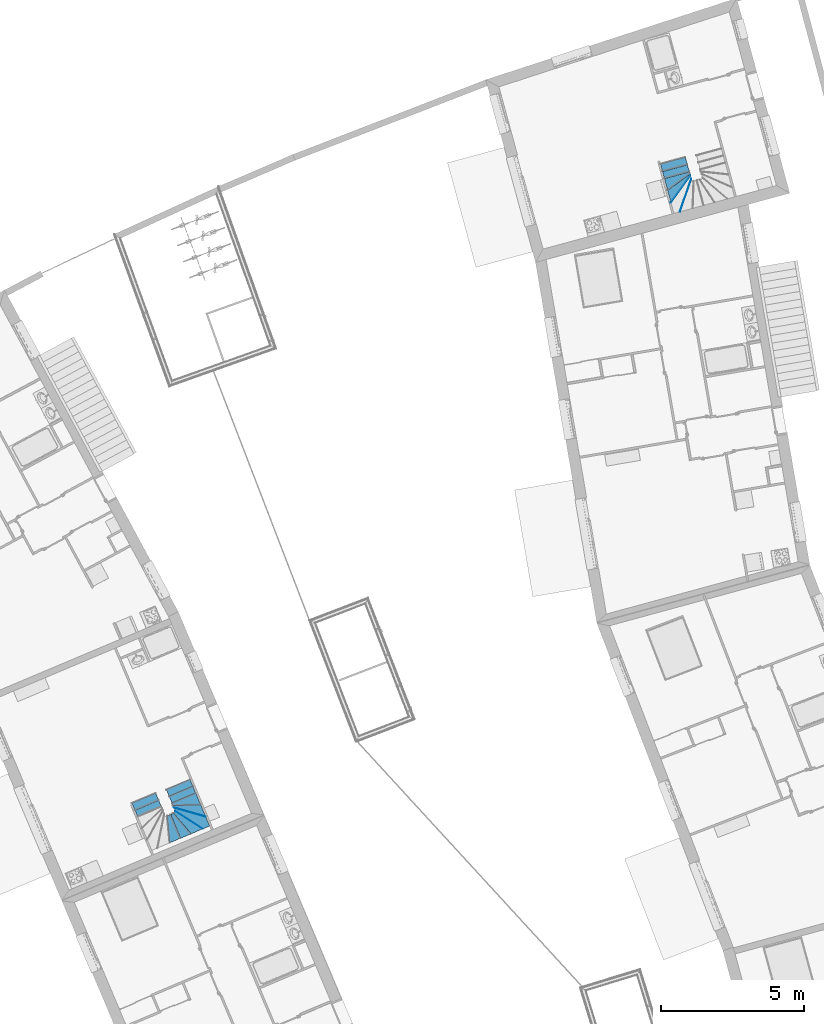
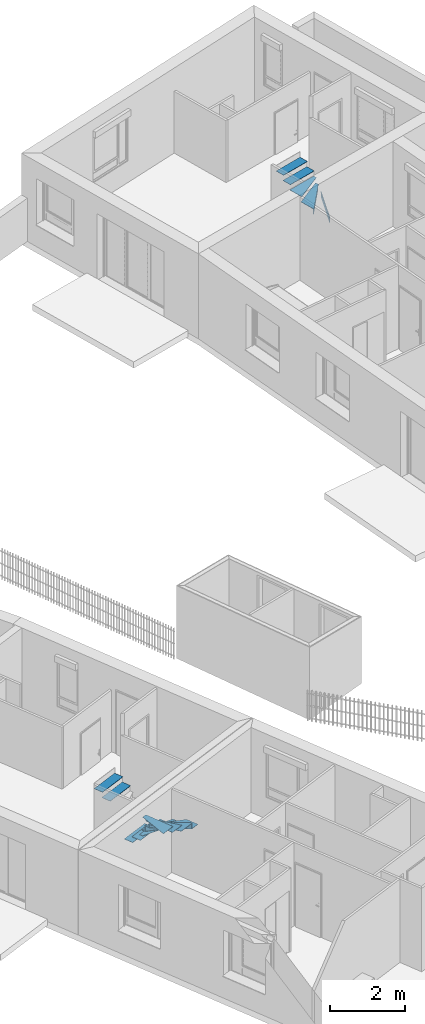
# One storey, part 102 of 195: 33 members, 4 elements without a shape of their own.
"""IFC2X3 building model written with IfcOpenShell, lengths in metres."""

from ifc_helpers import new_model, entity, si_unit, converted_unit, derived_unit, money_unit, direction, frame, origin_with_axes, place, context, subcontext, project, spatial, faceted_brep, material, type_object, element, aggregate, save


model = new_model("IFC2X3")

# Units and contexts
model_context = context("Model", 3, precision=1e-05, world=origin_with_axes(), true_north=direction((0.0, 1.0)))
body_context = subcontext(model_context, "Body", "Model", "MODEL_VIEW")
ifc_project = project(units=[si_unit("LENGTHUNIT", "METRE"), si_unit("AREAUNIT", "SQUARE_METRE"), si_unit("VOLUMEUNIT", "CUBIC_METRE"), converted_unit("PLANEANGLEUNIT", "DEGREE", entity("IfcPlaneAngleMeasure", 0.0174532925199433), si_unit("PLANEANGLEUNIT", "RADIAN"), dimensions=[0, 0, 0, 0, 0, 0, 0]), money_unit("CHF"), converted_unit("TIMEUNIT", "Year", entity("IfcTimeMeasure", 31557600.0), si_unit("TIMEUNIT", "SECOND"), dimensions=[0, 0, 1, 0, 0, 0, 0]), si_unit("MASSUNIT", "GRAM", prefix="KILO"), si_unit("THERMODYNAMICTEMPERATUREUNIT", "DEGREE_CELSIUS"), si_unit("LUMINOUSINTENSITYUNIT", "LUMEN"), si_unit("ENERGYUNIT", "JOULE", prefix="MEGA"), derived_unit("THERMALCONDUCTANCEUNIT", [(si_unit("POWERUNIT", "WATT"), 1), (si_unit("LENGTHUNIT", "METRE"), -1), (si_unit("THERMODYNAMICTEMPERATUREUNIT", "KELVIN"), -1)]), derived_unit("SPECIFICHEATCAPACITYUNIT", [(si_unit("ENERGYUNIT", "JOULE"), 1), (si_unit("MASSUNIT", "GRAM", prefix="KILO"), -1), (si_unit("THERMODYNAMICTEMPERATUREUNIT", "KELVIN"), -1)]), derived_unit("MASSDENSITYUNIT", [(si_unit("MASSUNIT", "GRAM", prefix="KILO"), 1), (si_unit("VOLUMEUNIT", "CUBIC_METRE"), -1)])], contexts=[model_context])

# Site, building, storey
site_placement = place(None, origin_with_axes())
site = spatial("IfcSite", under=ifc_project, at=site_placement, Name="Site", CompositionType="ELEMENT")
building_placement = place(site_placement, origin_with_axes())
building = spatial("IfcBuilding", under=site, at=building_placement, Name="Bâtiment", CompositionType="ELEMENT")
storey_placement = place(building_placement, origin_with_axes())
storey = spatial("IfcBuildingStorey", under=building, at=storey_placement, Name="rdc", CompositionType="ELEMENT", Elevation=0.0)

# Stair, members
stair_1_placement = place(storey_placement, frame((9586.532297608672, -1019.891691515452, 57.0), z_axis=(0.0, 0.0, 1.0), x_axis=(0.2627338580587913, -0.9648683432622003, 0.0)))
stair_1 = element("IfcStair", 1, at=stair_1_placement, inside=storey, Name="ESC-014", ShapeType="NOTDEFINED")
ifc_material = material(Name="Lame d'air 275581351")
member_type = type_object("IfcMemberType", Name="IfcMember", PredefinedType="NOTDEFINED")
member_1_placement = place(stair_1_placement, frame((0.3566547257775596, -1.568489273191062, 1.789999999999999), z_axis=(0.0, 0.0, 1.0), x_axis=(-0.8264540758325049, 0.5630041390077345, 0.0)))
member_1 = element("IfcMember", 2, at=member_1_placement, type_object=member_type, material=ifc_material, Name="C-MARCHE-240", context=body_context, shape_type="Brep", body=[
    faceted_brep([(0.5380235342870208, 0.01499999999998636, 0.0), (0.5527028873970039, 0.02499999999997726, 0.0), (-0.6744728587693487, 0.02499999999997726, 0.0), (-0.6676605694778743, 0.01499999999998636, 0.0), (0.5380235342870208, 0.01499999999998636, -0.1700000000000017), (0.5527028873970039, 0.02499999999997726, -0.1700000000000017), (-0.6744728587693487, 0.02499999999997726, -0.1700000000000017), (-0.6676605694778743, 0.01499999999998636, -0.1700000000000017)], [[[0, 1, 2, 3]], [[0, 4, 5, 1]], [[1, 5, 6, 2]], [[3, 2, 6, 7]], [[4, 0, 3, 7]], [[5, 4, 7, 6]]]),
])
member_2_placement = place(stair_1_placement, frame((0.1501363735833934, -1.712785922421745, 1.969999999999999), z_axis=(0.0, 0.0, 1.0), x_axis=(-0.6269331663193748, 0.7790730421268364, 0.0)))
member_2 = element("IfcMember", 3, at=member_2_placement, type_object=member_type, material=ifc_material, Name="C-MARCHE-241", context=body_context, shape_type="Brep", body=[
    faceted_brep([(0.5701818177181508, 0.01499999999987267, 0.0), (0.5782289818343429, 0.02499999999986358, 0.0), (-0.5769898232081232, 0.02499999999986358, 0.0), (-0.5850369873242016, 0.01499999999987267, 0.0), (0.5701818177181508, 0.01499999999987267, -0.1700000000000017), (0.5782289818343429, 0.02499999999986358, -0.1700000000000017), (-0.5769898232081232, 0.02499999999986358, -0.1700000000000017), (-0.5850369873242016, 0.01499999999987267, -0.1700000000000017)], [[[0, 1, 2, 3]], [[0, 4, 5, 1]], [[1, 5, 6, 2]], [[3, 2, 6, 7]], [[4, 0, 3, 7]], [[5, 4, 7, 6]]]),
])
member_3_placement = place(stair_1_placement, frame((0.1501363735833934, -1.712785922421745, 1.979999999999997), z_axis=(0.0, 0.0, 1.0), x_axis=(-0.6269331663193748, 0.7790730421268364, 0.0)))
member_3 = element("IfcMember", 4, at=member_3_placement, type_object=member_type, material=ifc_material, Name="MARCHE-233", context=body_context, shape_type="Brep", body=[
    faceted_brep([(-0.5971077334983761, 0.0, -0.00999999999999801), (0.5581110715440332, 0.0, -0.00999999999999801), (0.5581110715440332, 0.0, 0.0), (-0.5971077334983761, 0.0, 0.0), (-0.2946838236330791, 0.3758142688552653, -0.00999999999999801), (0.6259951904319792, 0.08435781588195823, -0.00999999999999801), (0.6259951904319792, 0.08435781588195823, 0.0), (-0.2946838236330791, 0.3758142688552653, 0.0)], [[[0, 1, 2, 3]], [[0, 4, 5, 1]], [[1, 5, 6, 2]], [[3, 2, 6, 7]], [[4, 0, 3, 7]], [[5, 4, 7, 6]]]),
])
member_4_placement = place(stair_1_placement, frame((-0.102256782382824, -1.737976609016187, 2.159999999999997), z_axis=(0.0, 0.0, 1.0), x_axis=(-0.3625707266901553, 0.9319562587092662, 0.0)))
member_4 = element("IfcMember", 5, at=member_4_placement, type_object=member_type, material=ifc_material, Name="MARCHE-234", context=body_context, shape_type="Brep", body=[
    faceted_brep([(-0.4721251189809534, 0.0, -0.01), (0.4935853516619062, 0.0, -0.01), (0.4935853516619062, 0.0, 0.0), (-0.4721251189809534, 0.0, 0.0), (-0.3084702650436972, 0.4206607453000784, -0.01), (0.5302904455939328, 0.09434729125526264, -0.01), (0.5302904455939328, 0.09434729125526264, 0.0), (-0.3084702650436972, 0.4206607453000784, 0.0)], [[[0, 1, 2, 3]], [[0, 4, 5, 1]], [[1, 5, 6, 2]], [[3, 2, 6, 7]], [[4, 0, 3, 7]], [[5, 4, 7, 6]]]),
])
member_5_placement = place(stair_1_placement, frame((-0.3574520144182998, -1.737976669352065, 2.340000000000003), z_axis=(0.0, 0.0, 1.0), x_axis=(-2.364303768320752e-07, 0.9999999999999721, 0.0)))
member_5 = element("IfcMember", 6, at=member_5_placement, type_object=member_type, material=ifc_material, Name="MARCHE-235", context=body_context, shape_type="Brep", body=[
    faceted_brep([(-0.4399999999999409, 0.0, -0.00999999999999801), (0.4600000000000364, 0.0, -0.00999999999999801), (0.4600000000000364, 0.0, 0.0), (-0.4399999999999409, 0.0, 0.0), (-0.4399999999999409, 0.280195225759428, -0.00999999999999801), (0.4600000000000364, 0.2801952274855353, -0.00999999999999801), (0.4600000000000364, 0.2801952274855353, 0.0), (-0.4399999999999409, 0.280195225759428, 0.0)], [[[0, 1, 2, 3]], [[0, 4, 5, 1]], [[1, 5, 6, 2]], [[3, 2, 6, 7]], [[4, 0, 3, 7]], [[5, 4, 7, 6]]]),
])
member_6_placement = place(stair_1_placement, frame((-0.6126472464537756, -1.73797672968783, 2.520000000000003), z_axis=(0.0, 0.0, 1.0), x_axis=(-2.364303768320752e-07, 0.9999999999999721, 0.0)))
member_6 = element("IfcMember", 7, at=member_6_placement, type_object=member_type, material=ifc_material, Name="MARCHE-236", context=body_context, shape_type="Brep", body=[
    faceted_brep([(-0.4400000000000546, 0.0, -0.00999999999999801), (0.4599999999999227, 0.0, -0.00999999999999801), (0.4599999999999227, 0.0, 0.0), (-0.4400000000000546, 0.0, 0.0), (-0.4400000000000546, 0.2551952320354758, -0.00999999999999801), (-0.4399999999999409, 0.280195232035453, -0.00999999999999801), (0.4600000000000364, 0.280195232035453, -0.00999999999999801), (0.4600000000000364, 0.2551952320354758, -0.00999999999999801), (0.4600000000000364, 0.2551952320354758, 0.0), (0.4600000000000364, 0.280195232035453, 0.0), (-0.4399999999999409, 0.280195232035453, 0.0), (-0.4400000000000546, 0.2551952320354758, 0.0)], [[[0, 1, 2, 3]], [[0, 4, 5, 6, 7, 1]], [[1, 7, 8, 2]], [[3, 2, 8, 9, 10, 11]], [[4, 0, 3, 11]], [[5, 4, 11, 10]], [[6, 5, 10, 9]], [[7, 6, 9, 8]]]),
])
aggregate(stair_1, [member_1, member_2, member_3, member_4, member_5, member_6])

stair_2_placement = place(storey_placement, frame((9568.089270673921, -1041.901953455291, 57.0), z_axis=(0.0, 0.0, 1.0), x_axis=(0.3885666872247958, -0.9214206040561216, 0.0)))
stair_2 = element("IfcStair", 8, at=stair_2_placement, inside=storey, Name="ESC-014", ShapeType="NOTDEFINED")
member_7_placement = place(stair_2_placement, frame((0.1501360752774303, -0.4512523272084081, 0.8900000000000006), z_axis=(0.0, 0.0, 1.0), x_axis=(-0.6269327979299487, -0.7790733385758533, 0.0)))
member_7 = element("IfcMember", 9, at=member_7_placement, type_object=member_type, material=ifc_material, Name="C-MARCHE-235", context=body_context, shape_type="Brep", body=[
    faceted_brep([(0.5460403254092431, 0.01500000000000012, 0.0), (0.5379931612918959, 0.02500000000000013, 0.0), (-0.6172256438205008, 0.02500000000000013, 0.0), (-0.6091784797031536, 0.01500000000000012, 0.0), (0.5460403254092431, 0.01500000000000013, -0.17), (0.5379931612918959, 0.02500000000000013, -0.17), (-0.6172256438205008, 0.02500000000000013, -0.17), (-0.6091784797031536, 0.01500000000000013, -0.17)], [[[0, 1, 2, 3]], [[0, 4, 5, 1]], [[1, 5, 6, 2]], [[3, 2, 6, 7]], [[4, 0, 3, 7]], [[5, 4, 7, 6]]]),
])
member_8_placement = place(stair_2_placement, frame((0.3566544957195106, -0.5955488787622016, 1.07), z_axis=(0.0, 0.0, 1.0), x_axis=(-0.8264538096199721, -0.5630045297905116, 0.0)))
member_8 = element("IfcMember", 10, at=member_8_placement, type_object=member_type, material=ifc_material, Name="C-MARCHE-236", context=body_context, shape_type="Brep", body=[
    faceted_brep([(0.4939854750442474, 0.0149999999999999, 0.0), (0.4793061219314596, 0.0249999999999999, 0.0), (-0.6404114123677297, 0.02499999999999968, 0.0), (-0.6472237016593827, 0.01499999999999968, 0.0), (0.4939854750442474, 0.01499999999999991, -0.1699999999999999), (0.4793061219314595, 0.02499999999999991, -0.1699999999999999), (-0.6404114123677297, 0.02499999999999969, -0.1699999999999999), (-0.6472237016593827, 0.01499999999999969, -0.1699999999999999)], [[[0, 1, 2, 3]], [[0, 4, 5, 1]], [[1, 5, 6, 2]], [[3, 2, 6, 7]], [[4, 0, 3, 7]], [[5, 4, 7, 6]]]),
])
member_9_placement = place(stair_2_placement, frame((-0.8678427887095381, -0.4260619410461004, 0.1799999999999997), z_axis=(0.0, 0.0, 1.0), x_axis=(2.3650091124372e-07, -0.999999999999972, 0.0)))
member_9 = element("IfcMember", 11, at=member_9_placement, type_object=member_type, material=ifc_material, Name="MARCHE-223", context=body_context, shape_type="Brep", body=[
    faceted_brep([(-0.44, 0.0, -0.01), (0.4600000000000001, 0.0, -0.01), (0.4600000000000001, 0.0, 0.0), (-0.44, 0.0, 0.0), (-0.4399999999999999, 0.280195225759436, -0.01), (0.4600000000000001, 0.2801952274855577, -0.01), (0.4600000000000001, 0.2801952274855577, 0.0), (-0.4399999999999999, 0.280195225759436, 0.0)], [[[0, 1, 2, 3]], [[0, 4, 5, 1]], [[1, 5, 6, 2]], [[3, 2, 6, 7]], [[4, 0, 3, 7]], [[5, 4, 7, 6]]]),
])
member_10_placement = place(stair_2_placement, frame((-0.6126475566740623, -0.4260618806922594, 0.3599999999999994), z_axis=(0.0, 0.0, 1.0), x_axis=(2.365009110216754e-07, -0.999999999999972, 0.0)))
member_10 = element("IfcMember", 12, at=member_10_placement, type_object=member_type, material=ifc_material, Name="MARCHE-224", context=body_context, shape_type="Brep", body=[
    faceted_brep([(-0.44, 0.0, -0.01), (0.4600000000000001, 0.0, -0.01), (0.4600000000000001, 0.0, 0.0), (-0.44, 0.0, 0.0), (-0.4399999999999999, 0.280195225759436, -0.01), (0.4600000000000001, 0.2801952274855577, -0.01), (0.4600000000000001, 0.2801952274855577, 0.0), (-0.4399999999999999, 0.280195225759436, 0.0)], [[[0, 1, 2, 3]], [[0, 4, 5, 1]], [[1, 5, 6, 2]], [[3, 2, 6, 7]], [[4, 0, 3, 7]], [[5, 4, 7, 6]]]),
])
member_11_placement = place(stair_2_placement, frame((-0.3574523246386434, -0.4260618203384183, 0.5399999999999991), z_axis=(0.0, 0.0, 1.0), x_axis=(2.3650091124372e-07, -0.999999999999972, 0.0)))
member_11 = element("IfcMember", 13, at=member_11_placement, type_object=member_type, material=ifc_material, Name="MARCHE-225", context=body_context, shape_type="Brep", body=[
    faceted_brep([(-0.4400000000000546, 0.0, -0.00999999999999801), (0.4600000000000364, 0.0, -0.00999999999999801), (0.4600000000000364, 0.0, 0.0), (-0.4400000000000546, 0.0, 0.0), (-0.4399999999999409, 0.4531991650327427, -0.00999999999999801), (0.4599999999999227, 0.1030610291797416, -0.00999999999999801), (0.4599999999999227, 0.1030610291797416, 0.0), (-0.4399999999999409, 0.4531991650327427, 0.0)], [[[0, 1, 2, 3]], [[0, 4, 5, 1]], [[1, 5, 6, 2]], [[3, 2, 6, 7]], [[4, 0, 3, 7]], [[5, 4, 7, 6]]]),
])
member_12_placement = place(stair_2_placement, frame((-0.1022570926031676, -0.4260617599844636, 0.7199999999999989), z_axis=(0.0, 0.0, 1.0), x_axis=(-0.362570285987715, -0.9319564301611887, 0.0)))
member_12 = element("IfcMember", 14, at=member_12_placement, type_object=member_type, material=ifc_material, Name="MARCHE-226", context=body_context, shape_type="Brep", body=[
    faceted_brep([(-0.4721251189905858, 0.0, -0.01), (0.4935853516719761, 0.0, -0.01), (0.4935853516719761, 0.0, 0.0), (-0.4721251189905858, 0.0, 0.0), (-0.6489327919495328, 0.4544689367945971, -0.01), (0.4524177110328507, 0.1058178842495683, -0.01), (0.4524177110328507, 0.1058178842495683, 0.0), (-0.6489327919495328, 0.4544689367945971, 0.0)], [[[0, 1, 2, 3]], [[0, 4, 5, 1]], [[1, 5, 6, 2]], [[3, 2, 6, 7]], [[4, 0, 3, 7]], [[5, 4, 7, 6]]]),
])
member_13_placement = place(stair_2_placement, frame((0.1501360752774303, -0.4512523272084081, 0.8999999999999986), z_axis=(0.0, 0.0, 1.0), x_axis=(-0.6269327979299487, -0.7790733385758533, 0.0)))
member_13 = element("IfcMember", 15, at=member_13_placement, type_object=member_type, material=ifc_material, Name="MARCHE-227", context=body_context, shape_type="Brep", body=[
    faceted_brep([(-0.5971077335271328, 0.0, -0.01), (0.5581110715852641, 0.0, -0.01), (0.5581110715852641, 0.0, 0.0), (-0.5971077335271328, 0.0, 0.0), (-0.8325320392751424, 0.2925556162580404, -0.01), (-0.6224984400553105, 0.4615731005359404, -0.01), (0.4487944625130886, 0.1358448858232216, -0.01), (0.4487944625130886, 0.1358448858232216, 0.0), (-0.6224984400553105, 0.4615731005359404, 0.0), (-0.8325320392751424, 0.2925556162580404, 0.0)], [[[0, 1, 2, 3]], [[0, 4, 5, 6, 1]], [[1, 6, 7, 2]], [[3, 2, 7, 8, 9]], [[4, 0, 3, 9]], [[5, 4, 9, 8]], [[6, 5, 8, 7]]]),
])
member_14_placement = place(stair_2_placement, frame((0.3566544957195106, -0.5955488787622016, 1.079999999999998), z_axis=(0.0, 0.0, 1.0), x_axis=(-0.8264538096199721, -0.5630045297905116, 0.0)))
member_14 = element("IfcMember", 16, at=member_14_placement, type_object=member_type, material=ifc_material, Name="MARCHE-228", context=body_context, shape_type="Brep", body=[
    faceted_brep([(-0.6574421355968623, 0.0, -0.01), (0.5160045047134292, 0.0, -0.01), (0.5160045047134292, 0.0, 0.0), (-0.6574421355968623, 0.0, 0.0), (-0.3823180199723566, 0.403864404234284, -0.01), (0.5203138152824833, 0.1303028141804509, -0.01), (0.4583183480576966, 0.03929747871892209, -0.01), (0.4583183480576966, 0.03929747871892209, 0.0), (0.5203138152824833, 0.1303028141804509, 0.0), (-0.3823180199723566, 0.403864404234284, 0.0)], [[[0, 1, 2, 3]], [[0, 4, 5, 6, 1]], [[1, 6, 7, 2]], [[3, 2, 7, 8, 9]], [[4, 0, 3, 9]], [[5, 4, 9, 8]], [[6, 5, 8, 7]]]),
])
member_15_placement = place(stair_2_placement, frame((0.4561912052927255, -0.8269874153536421, 1.259999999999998), z_axis=(0.0, 0.0, 1.0), x_axis=(-0.9542231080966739, -0.2990957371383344, 0.0)))
member_15 = element("IfcMember", 17, at=member_15_placement, type_object=member_type, material=ifc_material, Name="MARCHE-229", context=body_context, shape_type="Brep", body=[
    faceted_brep([(-0.465099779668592, 0.0, -0.01), (0.4780758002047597, 0.0, -0.01), (0.4780758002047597, 0.0, 0.0), (-0.465099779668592, 0.0, 0.0), (-0.3397366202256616, 0.3999539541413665, -0.01), (0.5190642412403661, 0.1307679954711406, -0.01), (0.5190642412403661, 0.1307679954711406, 0.0), (-0.3397366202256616, 0.3999539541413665, 0.0)], [[[0, 1, 2, 3]], [[0, 4, 5, 1]], [[1, 5, 6, 2]], [[3, 2, 6, 7]], [[4, 0, 3, 7]], [[5, 4, 7, 6]]]),
])
member_16_placement = place(stair_2_placement, frame((0.4600002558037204, -1.082019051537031, 1.439999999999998), z_axis=(0.0, 0.0, 1.0), x_axis=(-0.9999999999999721, -2.364141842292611e-07, 0.0)))
member_16 = element("IfcMember", 18, at=member_16_placement, type_object=member_type, material=ifc_material, Name="MARCHE-230", context=body_context, shape_type="Brep", body=[
    faceted_brep([(-0.4400000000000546, 0.0, -0.00999999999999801), (0.4600000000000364, 0.0, -0.00999999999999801), (0.4600000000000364, 0.0, 0.0), (-0.4400000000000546, 0.0, 0.0), (-0.4400000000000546, 0.420340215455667, -0.00999999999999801), (0.4599999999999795, 0.138240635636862, -0.00999999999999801), (0.4599999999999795, 0.138240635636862, 0.0), (-0.4400000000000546, 0.420340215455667, 0.0)], [[[0, 1, 2, 3]], [[0, 4, 5, 1]], [[1, 5, 6, 2]], [[3, 2, 6, 7]], [[4, 0, 3, 7]], [[5, 4, 7, 6]]]),
])
member_17_placement = place(stair_2_placement, frame((-0.6126472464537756, -1.737976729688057, 2.520000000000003), z_axis=(0.0, 0.0, 1.0), x_axis=(-2.36430376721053e-07, 0.9999999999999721, 0.0)))
member_17 = element("IfcMember", 19, at=member_17_placement, type_object=member_type, material=ifc_material, Name="MARCHE-236", context=body_context, shape_type="Brep", body=[
    faceted_brep([(-0.4399999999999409, 0.0, -0.00999999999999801), (0.4600000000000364, 0.0, -0.00999999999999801), (0.4600000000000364, 0.0, 0.0), (-0.4399999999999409, 0.0, 0.0), (-0.4400000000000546, 0.2551952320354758, -0.00999999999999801), (-0.4400000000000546, 0.2801952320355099, -0.00999999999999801), (0.4600000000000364, 0.280195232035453, -0.00999999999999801), (0.4600000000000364, 0.2551952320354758, -0.00999999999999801), (0.4600000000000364, 0.2551952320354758, 0.0), (0.4600000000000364, 0.280195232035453, 0.0), (-0.4400000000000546, 0.2801952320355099, 0.0), (-0.4400000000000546, 0.2551952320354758, 0.0)], [[[0, 1, 2, 3]], [[0, 4, 5, 6, 7, 1]], [[1, 7, 8, 2]], [[3, 2, 8, 9, 10, 11]], [[4, 0, 3, 11]], [[5, 4, 11, 10]], [[6, 5, 10, 9]], [[7, 6, 9, 8]]]),
])
aggregate(stair_2, [member_7, member_8, member_9, member_10, member_11, member_12, member_13, member_14, member_15, member_16, member_17])

stair_3_placement = place(storey_placement, frame((9586.532297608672, -1019.891691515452, 57.0), z_axis=(0.0, 0.0, 1.0), x_axis=(0.2627338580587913, -0.9648683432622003, 0.0)))
stair_3 = element("IfcStair", 20, at=stair_3_placement, inside=storey, Name="ESC-014", ShapeType="NOTDEFINED")
member_18_placement = place(stair_3_placement, frame((-0.102256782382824, -1.737976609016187, 2.159999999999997), z_axis=(0.0, 0.0, 1.0), x_axis=(-0.3625707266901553, 0.9319562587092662, 0.0)))
member_18 = element("IfcMember", 21, at=member_18_placement, type_object=member_type, material=ifc_material, Name="MARCHE-234", context=body_context, shape_type="Brep", body=[
    faceted_brep([(-0.4721251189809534, 0.0, -0.01), (0.4935853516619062, 0.0, -0.01), (0.4935853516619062, 0.0, 0.0), (-0.4721251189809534, 0.0, 0.0), (-0.3084702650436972, 0.4206607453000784, -0.01), (0.5302904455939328, 0.09434729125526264, -0.01), (0.5302904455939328, 0.09434729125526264, 0.0), (-0.3084702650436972, 0.4206607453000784, 0.0)], [[[0, 1, 2, 3]], [[0, 4, 5, 1]], [[1, 5, 6, 2]], [[3, 2, 6, 7]], [[4, 0, 3, 7]], [[5, 4, 7, 6]]]),
])
member_19_placement = place(stair_3_placement, frame((0.1501363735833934, -1.712785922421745, 1.979999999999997), z_axis=(0.0, 0.0, 1.0), x_axis=(-0.6269331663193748, 0.7790730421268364, 0.0)))
member_19 = element("IfcMember", 22, at=member_19_placement, type_object=member_type, material=ifc_material, Name="MARCHE-233", context=body_context, shape_type="Brep", body=[
    faceted_brep([(-0.5971077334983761, 0.0, -0.00999999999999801), (0.5581110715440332, 0.0, -0.00999999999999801), (0.5581110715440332, 0.0, 0.0), (-0.5971077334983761, 0.0, 0.0), (-0.2946838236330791, 0.3758142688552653, -0.00999999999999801), (0.6259951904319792, 0.08435781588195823, -0.00999999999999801), (0.6259951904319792, 0.08435781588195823, 0.0), (-0.2946838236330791, 0.3758142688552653, 0.0)], [[[0, 1, 2, 3]], [[0, 4, 5, 1]], [[1, 5, 6, 2]], [[3, 2, 6, 7]], [[4, 0, 3, 7]], [[5, 4, 7, 6]]]),
])
member_20_placement = place(stair_3_placement, frame((-0.3574520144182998, -1.737976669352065, 2.340000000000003), z_axis=(0.0, 0.0, 1.0), x_axis=(-2.364303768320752e-07, 0.9999999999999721, 0.0)))
member_20 = element("IfcMember", 23, at=member_20_placement, type_object=member_type, material=ifc_material, Name="MARCHE-235", context=body_context, shape_type="Brep", body=[
    faceted_brep([(-0.4399999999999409, 0.0, -0.00999999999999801), (0.4600000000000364, 0.0, -0.00999999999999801), (0.4600000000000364, 0.0, 0.0), (-0.4399999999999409, 0.0, 0.0), (-0.4399999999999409, 0.280195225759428, -0.00999999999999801), (0.4600000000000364, 0.2801952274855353, -0.00999999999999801), (0.4600000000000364, 0.2801952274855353, 0.0), (-0.4399999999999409, 0.280195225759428, 0.0)], [[[0, 1, 2, 3]], [[0, 4, 5, 1]], [[1, 5, 6, 2]], [[3, 2, 6, 7]], [[4, 0, 3, 7]], [[5, 4, 7, 6]]]),
])
member_21_placement = place(stair_3_placement, frame((-0.6126472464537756, -1.73797672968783, 2.520000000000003), z_axis=(0.0, 0.0, 1.0), x_axis=(-2.364303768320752e-07, 0.9999999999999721, 0.0)))
member_21 = element("IfcMember", 24, at=member_21_placement, type_object=member_type, material=ifc_material, Name="MARCHE-236", context=body_context, shape_type="Brep", body=[
    faceted_brep([(-0.4400000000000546, 0.0, -0.00999999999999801), (0.4599999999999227, 0.0, -0.00999999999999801), (0.4599999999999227, 0.0, 0.0), (-0.4400000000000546, 0.0, 0.0), (-0.4400000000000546, 0.2551952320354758, -0.00999999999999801), (-0.4399999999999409, 0.280195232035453, -0.00999999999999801), (0.4600000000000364, 0.280195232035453, -0.00999999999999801), (0.4600000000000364, 0.2551952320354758, -0.00999999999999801), (0.4600000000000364, 0.2551952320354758, 0.0), (0.4600000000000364, 0.280195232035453, 0.0), (-0.4399999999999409, 0.280195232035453, 0.0), (-0.4400000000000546, 0.2551952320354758, 0.0)], [[[0, 1, 2, 3]], [[0, 4, 5, 6, 7, 1]], [[1, 7, 8, 2]], [[3, 2, 8, 9, 10, 11]], [[4, 0, 3, 11]], [[5, 4, 11, 10]], [[6, 5, 10, 9]], [[7, 6, 9, 8]]]),
])
aggregate(stair_3, [member_18, member_19, member_20, member_21])

stair_4_placement = place(storey_placement, frame((9568.089270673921, -1041.901953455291, 57.0), z_axis=(0.0, 0.0, 1.0), x_axis=(0.3885666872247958, -0.9214206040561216, 0.0)))
stair_4 = element("IfcStair", 25, at=stair_4_placement, inside=storey, Name="ESC-014", ShapeType="NOTDEFINED")
member_22_placement = place(stair_4_placement, frame((0.1501360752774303, -0.4512523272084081, 0.8900000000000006), z_axis=(0.0, 0.0, 1.0), x_axis=(-0.6269327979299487, -0.7790733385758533, 0.0)))
member_22 = element("IfcMember", 26, at=member_22_placement, type_object=member_type, material=ifc_material, Name="C-MARCHE-235", context=body_context, shape_type="Brep", body=[
    faceted_brep([(0.5460403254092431, 0.01500000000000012, 0.0), (0.5379931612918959, 0.02500000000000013, 0.0), (-0.6172256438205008, 0.02500000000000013, 0.0), (-0.6091784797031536, 0.01500000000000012, 0.0), (0.5460403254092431, 0.01500000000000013, -0.17), (0.5379931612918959, 0.02500000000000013, -0.17), (-0.6172256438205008, 0.02500000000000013, -0.17), (-0.6091784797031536, 0.01500000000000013, -0.17)], [[[0, 1, 2, 3]], [[0, 4, 5, 1]], [[1, 5, 6, 2]], [[3, 2, 6, 7]], [[4, 0, 3, 7]], [[5, 4, 7, 6]]]),
])
member_23_placement = place(stair_4_placement, frame((0.3566544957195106, -0.5955488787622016, 1.07), z_axis=(0.0, 0.0, 1.0), x_axis=(-0.8264538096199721, -0.5630045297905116, 0.0)))
member_23 = element("IfcMember", 27, at=member_23_placement, type_object=member_type, material=ifc_material, Name="C-MARCHE-236", context=body_context, shape_type="Brep", body=[
    faceted_brep([(0.4939854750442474, 0.0149999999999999, 0.0), (0.4793061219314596, 0.0249999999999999, 0.0), (-0.6404114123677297, 0.02499999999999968, 0.0), (-0.6472237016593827, 0.01499999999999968, 0.0), (0.4939854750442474, 0.01499999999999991, -0.1699999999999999), (0.4793061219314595, 0.02499999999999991, -0.1699999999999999), (-0.6404114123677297, 0.02499999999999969, -0.1699999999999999), (-0.6472237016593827, 0.01499999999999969, -0.1699999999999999)], [[[0, 1, 2, 3]], [[0, 4, 5, 1]], [[1, 5, 6, 2]], [[3, 2, 6, 7]], [[4, 0, 3, 7]], [[5, 4, 7, 6]]]),
])
member_24_placement = place(stair_4_placement, frame((-0.8678427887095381, -0.4260619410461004, 0.1799999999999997), z_axis=(0.0, 0.0, 1.0), x_axis=(2.3650091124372e-07, -0.999999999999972, 0.0)))
member_24 = element("IfcMember", 28, at=member_24_placement, type_object=member_type, material=ifc_material, Name="MARCHE-223", context=body_context, shape_type="Brep", body=[
    faceted_brep([(-0.44, 0.0, -0.01), (0.4600000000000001, 0.0, -0.01), (0.4600000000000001, 0.0, 0.0), (-0.44, 0.0, 0.0), (-0.4399999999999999, 0.280195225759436, -0.01), (0.4600000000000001, 0.2801952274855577, -0.01), (0.4600000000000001, 0.2801952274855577, 0.0), (-0.4399999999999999, 0.280195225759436, 0.0)], [[[0, 1, 2, 3]], [[0, 4, 5, 1]], [[1, 5, 6, 2]], [[3, 2, 6, 7]], [[4, 0, 3, 7]], [[5, 4, 7, 6]]]),
])
member_25_placement = place(stair_4_placement, frame((-0.6126475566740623, -0.4260618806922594, 0.3599999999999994), z_axis=(0.0, 0.0, 1.0), x_axis=(2.365009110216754e-07, -0.999999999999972, 0.0)))
member_25 = element("IfcMember", 29, at=member_25_placement, type_object=member_type, material=ifc_material, Name="MARCHE-224", context=body_context, shape_type="Brep", body=[
    faceted_brep([(-0.44, 0.0, -0.01), (0.4600000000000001, 0.0, -0.01), (0.4600000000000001, 0.0, 0.0), (-0.44, 0.0, 0.0), (-0.4399999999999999, 0.280195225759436, -0.01), (0.4600000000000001, 0.2801952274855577, -0.01), (0.4600000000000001, 0.2801952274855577, 0.0), (-0.4399999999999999, 0.280195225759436, 0.0)], [[[0, 1, 2, 3]], [[0, 4, 5, 1]], [[1, 5, 6, 2]], [[3, 2, 6, 7]], [[4, 0, 3, 7]], [[5, 4, 7, 6]]]),
])
member_26_placement = place(stair_4_placement, frame((-0.3574523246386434, -0.4260618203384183, 0.5399999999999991), z_axis=(0.0, 0.0, 1.0), x_axis=(2.3650091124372e-07, -0.999999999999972, 0.0)))
member_26 = element("IfcMember", 30, at=member_26_placement, type_object=member_type, material=ifc_material, Name="MARCHE-225", context=body_context, shape_type="Brep", body=[
    faceted_brep([(-0.4400000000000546, 0.0, -0.00999999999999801), (0.4600000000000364, 0.0, -0.00999999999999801), (0.4600000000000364, 0.0, 0.0), (-0.4400000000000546, 0.0, 0.0), (-0.4399999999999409, 0.4531991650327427, -0.00999999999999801), (0.4599999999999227, 0.1030610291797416, -0.00999999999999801), (0.4599999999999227, 0.1030610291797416, 0.0), (-0.4399999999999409, 0.4531991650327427, 0.0)], [[[0, 1, 2, 3]], [[0, 4, 5, 1]], [[1, 5, 6, 2]], [[3, 2, 6, 7]], [[4, 0, 3, 7]], [[5, 4, 7, 6]]]),
])
member_27_placement = place(stair_4_placement, frame((-0.1022570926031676, -0.4260617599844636, 0.7199999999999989), z_axis=(0.0, 0.0, 1.0), x_axis=(-0.362570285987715, -0.9319564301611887, 0.0)))
member_27 = element("IfcMember", 31, at=member_27_placement, type_object=member_type, material=ifc_material, Name="MARCHE-226", context=body_context, shape_type="Brep", body=[
    faceted_brep([(-0.4721251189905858, 0.0, -0.01), (0.4935853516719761, 0.0, -0.01), (0.4935853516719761, 0.0, 0.0), (-0.4721251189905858, 0.0, 0.0), (-0.6489327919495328, 0.4544689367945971, -0.01), (0.4524177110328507, 0.1058178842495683, -0.01), (0.4524177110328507, 0.1058178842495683, 0.0), (-0.6489327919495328, 0.4544689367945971, 0.0)], [[[0, 1, 2, 3]], [[0, 4, 5, 1]], [[1, 5, 6, 2]], [[3, 2, 6, 7]], [[4, 0, 3, 7]], [[5, 4, 7, 6]]]),
])
member_28_placement = place(stair_4_placement, frame((0.1501360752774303, -0.4512523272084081, 0.8999999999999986), z_axis=(0.0, 0.0, 1.0), x_axis=(-0.6269327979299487, -0.7790733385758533, 0.0)))
member_28 = element("IfcMember", 32, at=member_28_placement, type_object=member_type, material=ifc_material, Name="MARCHE-227", context=body_context, shape_type="Brep", body=[
    faceted_brep([(-0.5971077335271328, 0.0, -0.01), (0.5581110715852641, 0.0, -0.01), (0.5581110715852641, 0.0, 0.0), (-0.5971077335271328, 0.0, 0.0), (-0.8325320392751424, 0.2925556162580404, -0.01), (-0.6224984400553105, 0.4615731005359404, -0.01), (0.4487944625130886, 0.1358448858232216, -0.01), (0.4487944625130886, 0.1358448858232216, 0.0), (-0.6224984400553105, 0.4615731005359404, 0.0), (-0.8325320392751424, 0.2925556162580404, 0.0)], [[[0, 1, 2, 3]], [[0, 4, 5, 6, 1]], [[1, 6, 7, 2]], [[3, 2, 7, 8, 9]], [[4, 0, 3, 9]], [[5, 4, 9, 8]], [[6, 5, 8, 7]]]),
])
member_29_placement = place(stair_4_placement, frame((0.3566544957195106, -0.5955488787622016, 1.079999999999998), z_axis=(0.0, 0.0, 1.0), x_axis=(-0.8264538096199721, -0.5630045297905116, 0.0)))
member_29 = element("IfcMember", 33, at=member_29_placement, type_object=member_type, material=ifc_material, Name="MARCHE-228", context=body_context, shape_type="Brep", body=[
    faceted_brep([(-0.6574421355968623, 0.0, -0.01), (0.5160045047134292, 0.0, -0.01), (0.5160045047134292, 0.0, 0.0), (-0.6574421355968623, 0.0, 0.0), (-0.3823180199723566, 0.403864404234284, -0.01), (0.5203138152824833, 0.1303028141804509, -0.01), (0.4583183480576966, 0.03929747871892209, -0.01), (0.4583183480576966, 0.03929747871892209, 0.0), (0.5203138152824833, 0.1303028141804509, 0.0), (-0.3823180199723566, 0.403864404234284, 0.0)], [[[0, 1, 2, 3]], [[0, 4, 5, 6, 1]], [[1, 6, 7, 2]], [[3, 2, 7, 8, 9]], [[4, 0, 3, 9]], [[5, 4, 9, 8]], [[6, 5, 8, 7]]]),
])
member_30_placement = place(stair_4_placement, frame((0.4561912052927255, -0.8269874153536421, 1.259999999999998), z_axis=(0.0, 0.0, 1.0), x_axis=(-0.9542231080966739, -0.2990957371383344, 0.0)))
member_30 = element("IfcMember", 34, at=member_30_placement, type_object=member_type, material=ifc_material, Name="MARCHE-229", context=body_context, shape_type="Brep", body=[
    faceted_brep([(-0.465099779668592, 0.0, -0.01), (0.4780758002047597, 0.0, -0.01), (0.4780758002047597, 0.0, 0.0), (-0.465099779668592, 0.0, 0.0), (-0.3397366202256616, 0.3999539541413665, -0.01), (0.5190642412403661, 0.1307679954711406, -0.01), (0.5190642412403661, 0.1307679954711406, 0.0), (-0.3397366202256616, 0.3999539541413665, 0.0)], [[[0, 1, 2, 3]], [[0, 4, 5, 1]], [[1, 5, 6, 2]], [[3, 2, 6, 7]], [[4, 0, 3, 7]], [[5, 4, 7, 6]]]),
])
member_31_placement = place(stair_4_placement, frame((0.4600002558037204, -1.082019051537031, 1.439999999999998), z_axis=(0.0, 0.0, 1.0), x_axis=(-0.9999999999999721, -2.364141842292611e-07, 0.0)))
member_31 = element("IfcMember", 35, at=member_31_placement, type_object=member_type, material=ifc_material, Name="MARCHE-230", context=body_context, shape_type="Brep", body=[
    faceted_brep([(-0.4400000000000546, 0.0, -0.00999999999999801), (0.4600000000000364, 0.0, -0.00999999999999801), (0.4600000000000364, 0.0, 0.0), (-0.4400000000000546, 0.0, 0.0), (-0.4400000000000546, 0.420340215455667, -0.00999999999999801), (0.4599999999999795, 0.138240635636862, -0.00999999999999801), (0.4599999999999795, 0.138240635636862, 0.0), (-0.4400000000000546, 0.420340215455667, 0.0)], [[[0, 1, 2, 3]], [[0, 4, 5, 1]], [[1, 5, 6, 2]], [[3, 2, 6, 7]], [[4, 0, 3, 7]], [[5, 4, 7, 6]]]),
])
member_32_placement = place(stair_4_placement, frame((-0.3574520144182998, -1.737976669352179, 2.340000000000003), z_axis=(0.0, 0.0, 1.0), x_axis=(-2.36430376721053e-07, 0.9999999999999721, 0.0)))
member_32 = element("IfcMember", 36, at=member_32_placement, type_object=member_type, material=ifc_material, Name="MARCHE-235", context=body_context, shape_type="Brep", body=[
    faceted_brep([(-0.4399999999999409, 0.0, -0.00999999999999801), (0.4600000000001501, 0.0, -0.00999999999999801), (0.4600000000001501, 0.0, 0.0), (-0.4399999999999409, 0.0, 0.0), (-0.4399999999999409, 0.280195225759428, -0.00999999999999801), (0.4600000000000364, 0.2801952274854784, -0.00999999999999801), (0.4600000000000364, 0.2801952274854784, 0.0), (-0.4399999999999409, 0.280195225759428, 0.0)], [[[0, 1, 2, 3]], [[0, 4, 5, 1]], [[1, 5, 6, 2]], [[3, 2, 6, 7]], [[4, 0, 3, 7]], [[5, 4, 7, 6]]]),
])
member_33_placement = place(stair_4_placement, frame((-0.6126472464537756, -1.737976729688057, 2.520000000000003), z_axis=(0.0, 0.0, 1.0), x_axis=(-2.36430376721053e-07, 0.9999999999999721, 0.0)))
member_33 = element("IfcMember", 37, at=member_33_placement, type_object=member_type, material=ifc_material, Name="MARCHE-236", context=body_context, shape_type="Brep", body=[
    faceted_brep([(-0.4399999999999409, 0.0, -0.00999999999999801), (0.4600000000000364, 0.0, -0.00999999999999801), (0.4600000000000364, 0.0, 0.0), (-0.4399999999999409, 0.0, 0.0), (-0.4400000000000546, 0.2551952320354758, -0.00999999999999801), (-0.4400000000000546, 0.2801952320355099, -0.00999999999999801), (0.4600000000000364, 0.280195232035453, -0.00999999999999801), (0.4600000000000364, 0.2551952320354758, -0.00999999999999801), (0.4600000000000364, 0.2551952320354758, 0.0), (0.4600000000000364, 0.280195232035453, 0.0), (-0.4400000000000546, 0.2801952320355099, 0.0), (-0.4400000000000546, 0.2551952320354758, 0.0)], [[[0, 1, 2, 3]], [[0, 4, 5, 6, 7, 1]], [[1, 7, 8, 2]], [[3, 2, 8, 9, 10, 11]], [[4, 0, 3, 11]], [[5, 4, 11, 10]], [[6, 5, 10, 9]], [[7, 6, 9, 8]]]),
])
aggregate(stair_4, [member_22, member_23, member_24, member_25, member_26, member_27, member_28, member_29, member_30, member_31, member_32, member_33])

save(model, "model.ifc")
